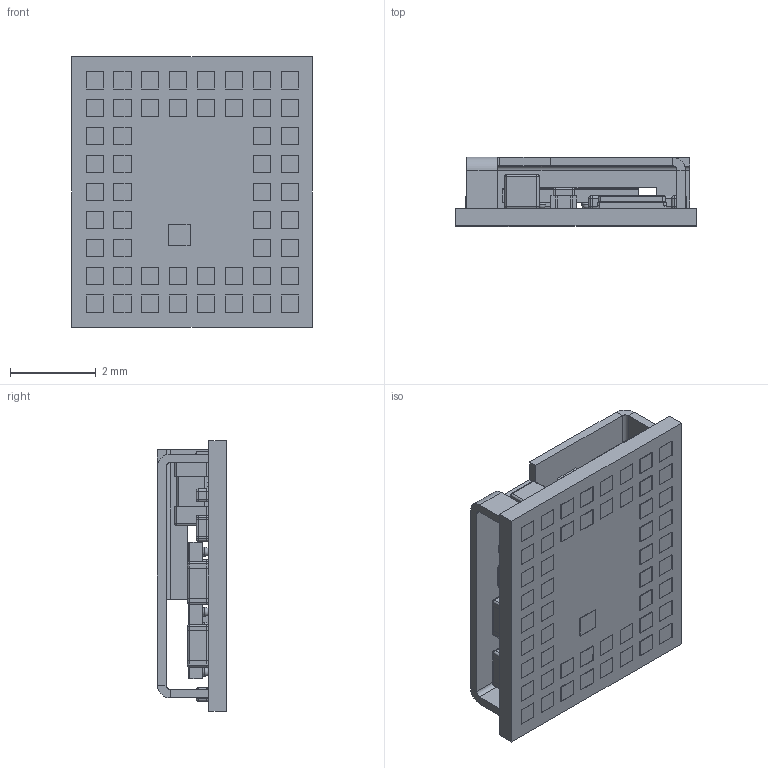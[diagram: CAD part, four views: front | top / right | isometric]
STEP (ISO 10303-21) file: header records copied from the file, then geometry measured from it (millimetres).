
FILE_DESCRIPTION (( 'STEP AP214' ), '1' );
FILE_NAME ('453-00060.STEP', '2020-08-19T07:06:32', ( '' ), ( '' ), 'SwSTEP 2.0', 'SolidWorks 2019', '' );
FILE_SCHEMA (( 'AUTOMOTIVE_DESIGN' ));
Length unit declared in the file: millimetre
Products named in the file (4): 750-03240; 940-00138; 453-00060; 110-00747_453-00060-ST
Assembly tree (3 placements, depth 3):
  453-00060
    940-00138
      750-03240
      110-00747_453-00060-ST
Bounding box: 5.6 x 1.61 x 6.3 mm (x, y, z)
Volume: 28.1 mm3; surface area: 307 mm2
Topology: 117 solids, 117 shells, 2213 faces, 5532 edges, 3526 vertices
Faces by surface type: plane 1265, bspline 355, cylinder 331, sphere 262
Entity records: 92901 total; most frequent: CARTESIAN_POINT 24114, ORIENTED_EDGE 10240, DIRECTION 9146, EDGE_CURVE 5120, LINE 3452, VECTOR 3452, VERTEX_POINT 3376, AXIS2_PLACEMENT_3D 2847
